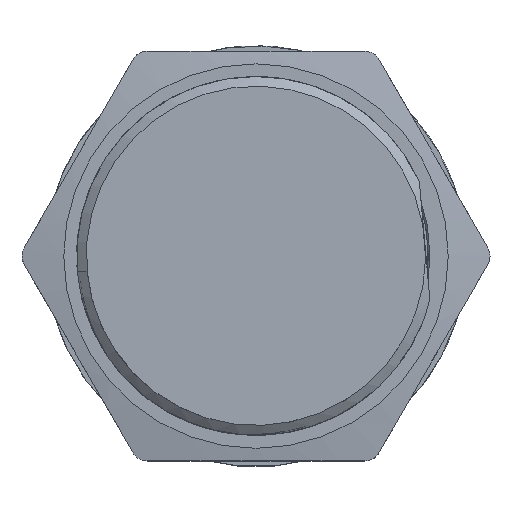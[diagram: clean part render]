
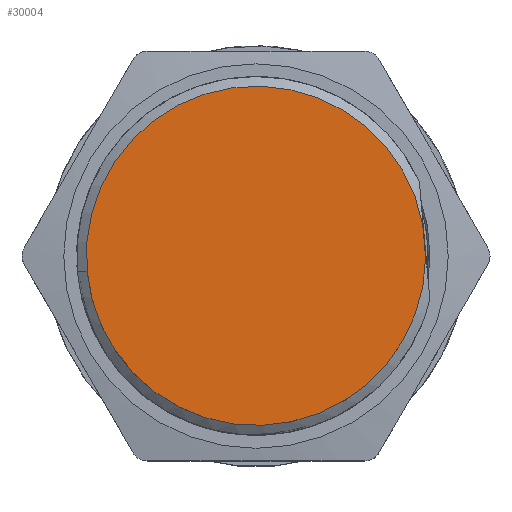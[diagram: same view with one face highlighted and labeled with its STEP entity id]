
A CAD part, top view. The second image highlights one B-rep face of the part: STEP entity #30004.
In plain terms, the highlighted planar face has unit normal (0, 0, 1).
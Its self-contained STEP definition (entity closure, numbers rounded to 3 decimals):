
#29954=CARTESIAN_POINT('',(-10.311,-0.902,18.2));
#29955=VERTEX_POINT('',#29954);
#29962=CARTESIAN_POINT('',(10.172,1.91,18.2));
#29963=VERTEX_POINT('',#29962);
#29964=CARTESIAN_POINT('',(0.,0.,18.2));
#29965=DIRECTION('',(-0.,-0.,1.));
#29966=DIRECTION('',(-1.,0.,0.));
#29967=AXIS2_PLACEMENT_3D('',#29964,#29965,#29966);
#29968=CIRCLE('',#29967,10.35);
#29969=EDGE_CURVE('',#29963,#29955,#29968,.T.);
#29981=CARTESIAN_POINT('',(0.,0.,18.2));
#29982=DIRECTION('',(0.,0.,-1.));
#29983=DIRECTION('',(-0.087,0.996,0.));
#29984=AXIS2_PLACEMENT_3D('',#29981,#29982,#29983);
#29985=PLANE('',#29984);
#29986=CARTESIAN_POINT('',(10.349,-0.115,18.2));
#29987=VERTEX_POINT('',#29986);
#29988=CARTESIAN_POINT('',(10.172,1.91,18.2));
#29989=DIRECTION('',(0.087,-0.996,0.));
#29990=VECTOR('',#29989,2.032);
#29991=LINE('',#29988,#29990);
#29992=EDGE_CURVE('',#29963,#29987,#29991,.T.);
#29993=ORIENTED_EDGE('',*,*,#29992,.F.);
#29994=ORIENTED_EDGE('',*,*,#29969,.T.);
#29995=CARTESIAN_POINT('',(0.,0.,18.2));
#29996=DIRECTION('',(-0.,-0.,1.));
#29997=DIRECTION('',(-1.,0.,0.));
#29998=AXIS2_PLACEMENT_3D('',#29995,#29996,#29997);
#29999=CIRCLE('',#29998,10.35);
#30000=EDGE_CURVE('',#29955,#29987,#29999,.T.);
#30001=ORIENTED_EDGE('',*,*,#30000,.T.);
#30002=EDGE_LOOP('',(#29993,#29994,#30001));
#30003=FACE_BOUND('',#30002,.T.);
#30004=ADVANCED_FACE('',(#30003),#29985,.F.);
